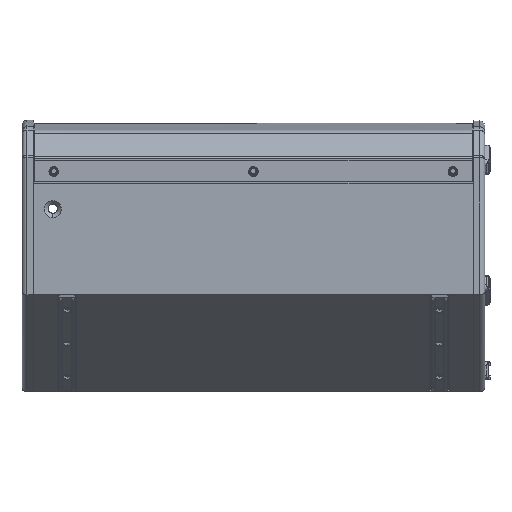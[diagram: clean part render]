
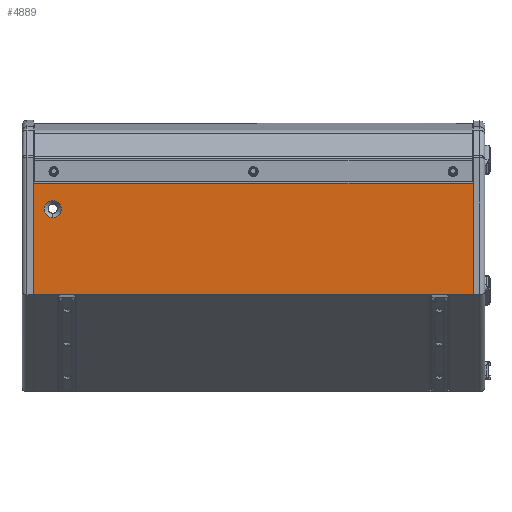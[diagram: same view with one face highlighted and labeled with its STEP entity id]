
A CAD part, left-side view. The second image highlights one B-rep face of the part: STEP entity #4889.
In plain terms, the highlighted planar face has unit normal (-0.999, 0, -0.044) as drawn and (0, 0, 1) by its records, which use the part's own axes.
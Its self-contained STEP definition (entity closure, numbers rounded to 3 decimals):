
#767 = CARTESIAN_POINT ( 'NONE',  ( -117.198, 285., 15. ) ) ;
#3412 = VERTEX_POINT ( 'NONE', #39738 ) ;
#4889 = ADVANCED_FACE ( 'NONE', ( #66533, #61506 ), #54895, .T. ) ;
#5500 = VECTOR ( 'NONE', #43738, 1000. ) ;
#7929 = DIRECTION ( 'NONE',  ( 0., 1., 0. ) ) ;
#8118 = CARTESIAN_POINT ( 'NONE',  ( 27.392, -290.37, 15. ) ) ;
#8529 = CARTESIAN_POINT ( 'NONE',  ( 27.392, -285., 15. ) ) ;
#9255 = LINE ( 'NONE', #8118, #93503 ) ;
#12691 = CARTESIAN_POINT ( 'NONE',  ( -6.159, 271.312, 15. ) ) ;
#13867 = DIRECTION ( 'NONE',  ( 0., -1., 0. ) ) ;
#13944 = DIRECTION ( 'NONE',  ( 0., 0., -1. ) ) ;
#14092 = CARTESIAN_POINT ( 'NONE',  ( -6.159, 260.2, 15. ) ) ;
#16913 = DIRECTION ( 'NONE',  ( 0., 0., 1. ) ) ;
#22224 = EDGE_CURVE ( 'NONE', #23042, #44284, #64380, .T. ) ;
#22247 = AXIS2_PLACEMENT_3D ( 'NONE', #60088, #16913, #40124 ) ;
#22698 = CARTESIAN_POINT ( 'NONE',  ( -6.159, 249.087, 15. ) ) ;
#23042 = VERTEX_POINT ( 'NONE', #22698 ) ;
#27423 = EDGE_CURVE ( 'NONE', #54341, #3412, #43009, .T. ) ;
#29133 = DIRECTION ( 'NONE',  ( -1., 0., 0. ) ) ;
#29258 = CARTESIAN_POINT ( 'NONE',  ( -117.198, 285., 15. ) ) ;
#32266 = ORIENTED_EDGE ( 'NONE', *, *, #81804, .T. ) ;
#35318 = EDGE_LOOP ( 'NONE', ( #65793, #60068, #32266, #36641 ) ) ;
#36641 = ORIENTED_EDGE ( 'NONE', *, *, #52028, .T. ) ;
#39738 = CARTESIAN_POINT ( 'NONE',  ( -117.198, -285., 15. ) ) ;
#39812 = CIRCLE ( 'NONE', #85814, 11.112 ) ;
#40124 = DIRECTION ( 'NONE',  ( 0., -1., 0. ) ) ;
#43009 = LINE ( 'NONE', #56951, #64025 ) ;
#43738 = DIRECTION ( 'NONE',  ( 1., 0., 0. ) ) ;
#44092 = CARTESIAN_POINT ( 'NONE',  ( -117.198, -285., 15. ) ) ;
#44284 = VERTEX_POINT ( 'NONE', #12691 ) ;
#51734 = LINE ( 'NONE', #44092, #5500 ) ;
#52028 = EDGE_CURVE ( 'NONE', #62773, #54341, #89267, .T. ) ;
#54341 = VERTEX_POINT ( 'NONE', #767 ) ;
#54895 = PLANE ( 'NONE',  #22247 ) ;
#56951 = CARTESIAN_POINT ( 'NONE',  ( -117.198, -290.37, 15. ) ) ;
#58197 = EDGE_CURVE ( 'NONE', #3412, #96919, #51734, .T. ) ;
#59484 = DIRECTION ( 'NONE',  ( 0., -1., 0. ) ) ;
#59575 = DIRECTION ( 'NONE',  ( 0., 0., -1. ) ) ;
#59695 = CARTESIAN_POINT ( 'NONE',  ( -6.159, 260.2, 15. ) ) ;
#60068 = ORIENTED_EDGE ( 'NONE', *, *, #58197, .T. ) ;
#60088 = CARTESIAN_POINT ( 'NONE',  ( -117.198, -290.37, 15. ) ) ;
#61506 = FACE_BOUND ( 'NONE', #85113, .T. ) ;
#62773 = VERTEX_POINT ( 'NONE', #81323 ) ;
#63798 = DIRECTION ( 'NONE',  ( 0., -1., 0. ) ) ;
#64025 = VECTOR ( 'NONE', #63798, 1000. ) ;
#64380 = CIRCLE ( 'NONE', #72933, 11.112 ) ;
#65793 = ORIENTED_EDGE ( 'NONE', *, *, #27423, .T. ) ;
#66533 = FACE_OUTER_BOUND ( 'NONE', #35318, .T. ) ;
#70990 = VECTOR ( 'NONE', #29133, 1000. ) ;
#72933 = AXIS2_PLACEMENT_3D ( 'NONE', #59695, #59575, #59484 ) ;
#74866 = ORIENTED_EDGE ( 'NONE', *, *, #22224, .T. ) ;
#81323 = CARTESIAN_POINT ( 'NONE',  ( 27.392, 285., 15. ) ) ;
#81804 = EDGE_CURVE ( 'NONE', #96919, #62773, #9255, .T. ) ;
#85113 = EDGE_LOOP ( 'NONE', ( #74866, #92122 ) ) ;
#85814 = AXIS2_PLACEMENT_3D ( 'NONE', #14092, #13944, #13867 ) ;
#89267 = LINE ( 'NONE', #29258, #70990 ) ;
#92122 = ORIENTED_EDGE ( 'NONE', *, *, #102149, .T. ) ;
#93503 = VECTOR ( 'NONE', #7929, 1000. ) ;
#96919 = VERTEX_POINT ( 'NONE', #8529 ) ;
#102149 = EDGE_CURVE ( 'NONE', #44284, #23042, #39812, .T. ) ;
